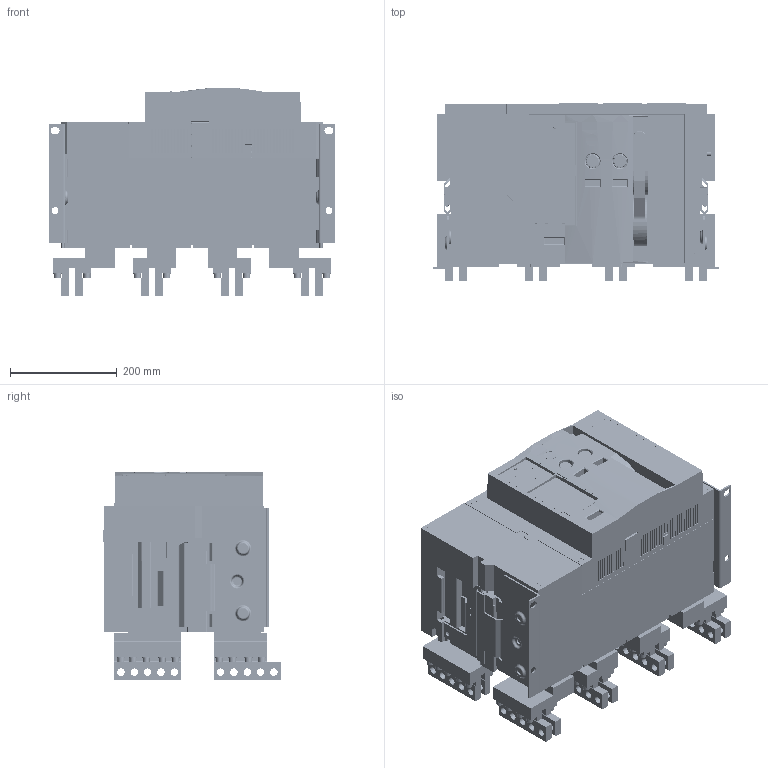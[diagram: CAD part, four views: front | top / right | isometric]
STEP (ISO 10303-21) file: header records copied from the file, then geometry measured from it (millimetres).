
FILE_DESCRIPTION (( 'STEP AP214' ), '1' );
FILE_NAME ('OptiMat A-S4-BH-4000-4P-F-V.STEP', '2023-10-19T10:10:42', ( '' ), ( '' ), 'SwSTEP 2.0', 'SolidWorks 2018', '' );
FILE_SCHEMA (( 'AUTOMOTIVE_DESIGN' ));
Length unit declared in the file: millimetre
Products named in the file (1): OptiMat A-S4-BH-4000-4P-F-V
Bounding box: 536 x 332.3 x 390.81 mm (x, y, z)
Volume: 34968640.2 mm3; surface area: 3134173.6 mm2
Topology: 63 solids, 242 shells, 15134 faces, 39839 edges, 25415 vertices
Faces by surface type: plane 7952, cylinder 3732, cone 2481, torus 685, bspline 254, sphere 30
Entity records: 657805 total; most frequent: CARTESIAN_POINT 111771, DIRECTION 80157, ORIENTED_EDGE 79362, EDGE_CURVE 39681, AXIS2_PLACEMENT_3D 28033, VERTEX_POINT 25410, VECTOR 24091, LINE 24091
